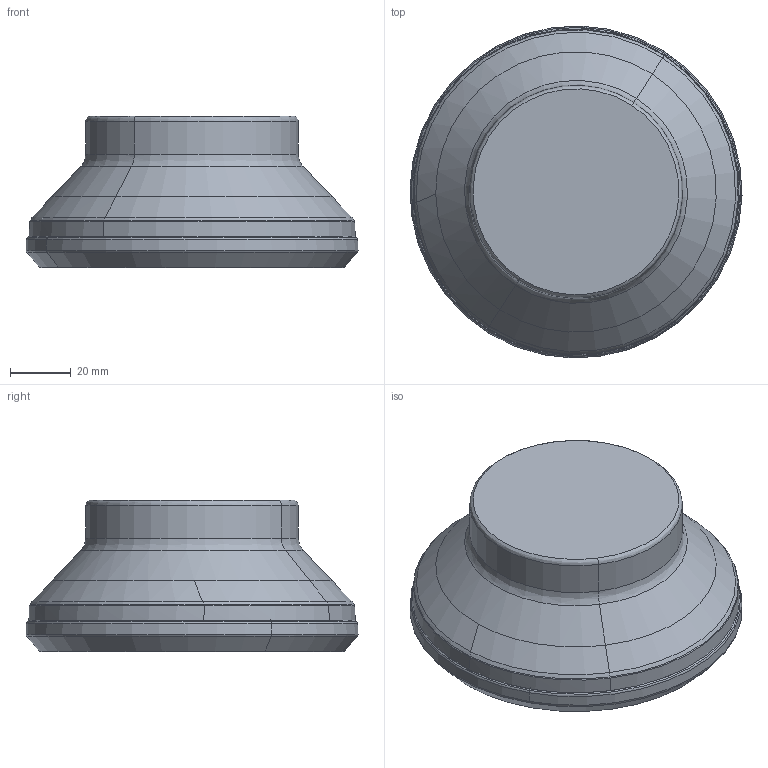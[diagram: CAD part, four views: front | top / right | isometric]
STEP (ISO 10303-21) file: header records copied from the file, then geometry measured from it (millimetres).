
FILE_DESCRIPTION(('CATIA V5 STEP','CAx-IF Rec.Pracs.--- Model Styling and Organization---1.2---2011-12-15'),'2;1');
FILE_NAME('I:\isr\design\admin8\users\weaam_s\3106528L.stp','2015-07-21T07:57:55+00:00',('none'),('none'),'CATIA Version 5 Release 21 SP 5 (IN-10)','CATIA V5 STEP AP214','none');
FILE_SCHEMA(('AUTOMOTIVE_DESIGN { 1 0 10303 214 1 1 1 1 }'));
Length unit declared in the file: millimetre
Products named in the file (1): IQ845 FSY D100-07-32-R07
Bounding box: 109.21 x 109.21 x 50 mm (x, y, z)
Volume: 288779.9 mm3; surface area: 43287.2 mm2
Topology: 2 solids, 2 shells, 103 faces, 208 edges, 108 vertices
Faces by surface type: revolution 92, cone 6, plane 3, cylinder 2
Entity records: 4021 total; most frequent: CARTESIAN_POINT 2089, ORIENTED_EDGE 416, DIRECTION 230, EDGE_CURVE 208, B_SPLINE_CURVE_WITH_KNOTS 184, AXIS2_PLACEMENT_3D 120, CIRCLE 108, VERTEX_POINT 108
